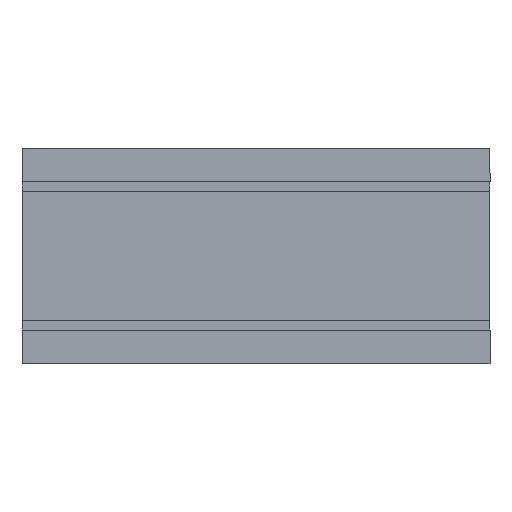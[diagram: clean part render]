
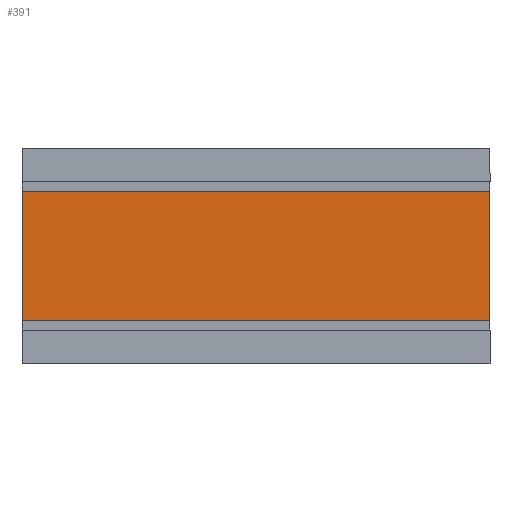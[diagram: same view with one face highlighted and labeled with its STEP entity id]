
A CAD part, top view. The second image highlights one B-rep face of the part: STEP entity #391.
In plain terms, the highlighted planar face has unit normal (0, 0, 1).
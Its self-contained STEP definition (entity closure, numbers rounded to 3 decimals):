
#192=CARTESIAN_POINT('',(0.0,244.142,-5.4));
#193=VERTEX_POINT('',#192);
#202=CARTESIAN_POINT('',(500.0,244.142,-5.4));
#203=VERTEX_POINT('',#202);
#204=CARTESIAN_POINT('',(500.0,244.142,-5.4));
#205=DIRECTION('',(-1.0,0.0,0.0));
#206=VECTOR('',#205,500.0);
#207=LINE('',#204,#206);
#208=EDGE_CURVE('',#203,#193,#207,.T.);
#234=CARTESIAN_POINT('',(0.0,105.858,-5.4));
#235=VERTEX_POINT('',#234);
#250=CARTESIAN_POINT('',(500.0,105.858,-5.4));
#251=VERTEX_POINT('',#250);
#258=CARTESIAN_POINT('',(0.0,105.858,-5.4));
#259=DIRECTION('',(1.0,0.0,0.0));
#260=VECTOR('',#259,500.0);
#261=LINE('',#258,#260);
#262=EDGE_CURVE('',#235,#251,#261,.T.);
#311=CARTESIAN_POINT('',(0.0,244.142,-5.4));
#312=DIRECTION('',(0.0,-1.0,0.0));
#313=VECTOR('',#312,138.285);
#314=LINE('',#311,#313);
#315=EDGE_CURVE('',#193,#235,#314,.T.);
#375=CARTESIAN_POINT('',(0.0,60.,-5.4));
#376=DIRECTION('',(0.0,0.0,1.0));
#377=DIRECTION('',(1.0,0.0,0.0));
#378=AXIS2_PLACEMENT_3D('',#375,#376,#377);
#379=PLANE('',#378);
#380=ORIENTED_EDGE('',*,*,#208,.T.);
#381=ORIENTED_EDGE('',*,*,#315,.T.);
#382=ORIENTED_EDGE('',*,*,#262,.T.);
#383=CARTESIAN_POINT('',(500.0,105.858,-5.4));
#384=DIRECTION('',(0.0,1.0,0.0));
#385=VECTOR('',#384,138.285);
#386=LINE('',#383,#385);
#387=EDGE_CURVE('',#251,#203,#386,.T.);
#388=ORIENTED_EDGE('',*,*,#387,.T.);
#389=EDGE_LOOP('',(#380,#381,#382,#388));
#390=FACE_OUTER_BOUND('',#389,.T.);
#391=ADVANCED_FACE('',(#390),#379,.T.);
